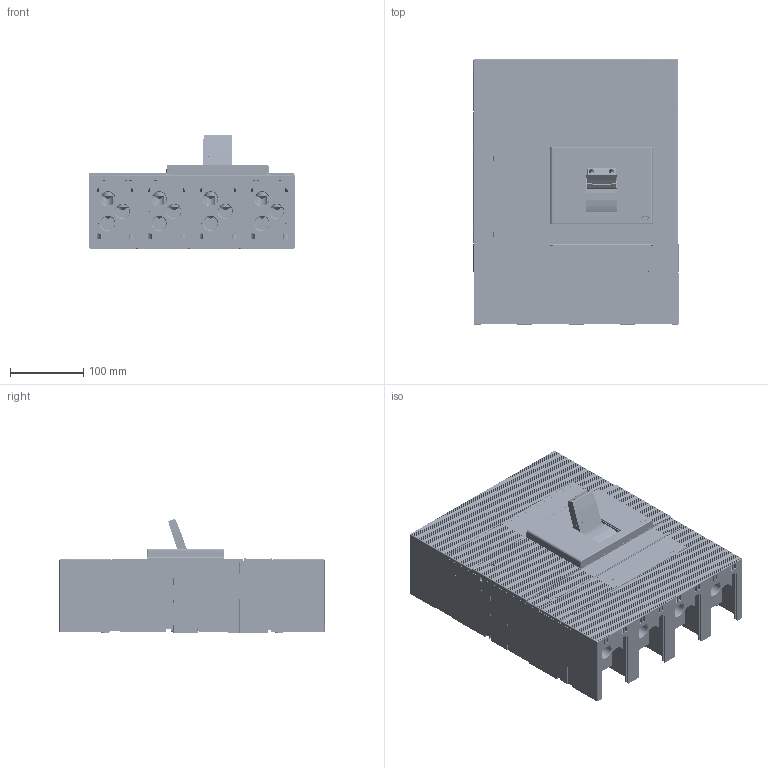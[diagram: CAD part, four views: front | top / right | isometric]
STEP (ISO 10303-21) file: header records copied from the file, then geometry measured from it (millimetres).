
FILE_DESCRIPTION((''),'2;1');
FILE_NAME('10000850893_ASM','2013-12-11T',('Knagaraj'),(''),'PRO/ENGINEER BY PARAMETRIC TECHNOLOGY CORPORATION, 2010140','PRO/ENGINEER BY PARAMETRIC TECHNOLOGY CORPORATION, 2010140','');
FILE_SCHEMA(('CONFIG_CONTROL_DESIGN'));
Products named in the file (5): 10000701834; 10000850742_ASM; 10000789728; 10000850811; 10000850893_ASM
Assembly tree (12 placements, depth 3):
  10000850893_ASM
    10000850742_ASM
      10000701834
    10000789728  x8
    10000850811  x2
Bounding box: 280 x 361 x 155.53 mm (x, y, z)
Surface area: 1446069.5 mm2 (no closed solid volume)
Topology: 0 solids, 153 shells, 11349 faces, 32688 edges, 21216 vertices
Faces by surface type: plane 8209, cylinder 2327, cone 522, sphere 180, torus 63, extrusion 40, bspline 8
Entity records: 282284 total; most frequent: CARTESIAN_POINT 57173, ORIENTED_EDGE 49225, DIRECTION 44150, EDGE_CURVE 24726, VECTOR 18714, LINE 18674, VERTEX_POINT 16123, AXIS2_PLACEMENT_3D 12718
